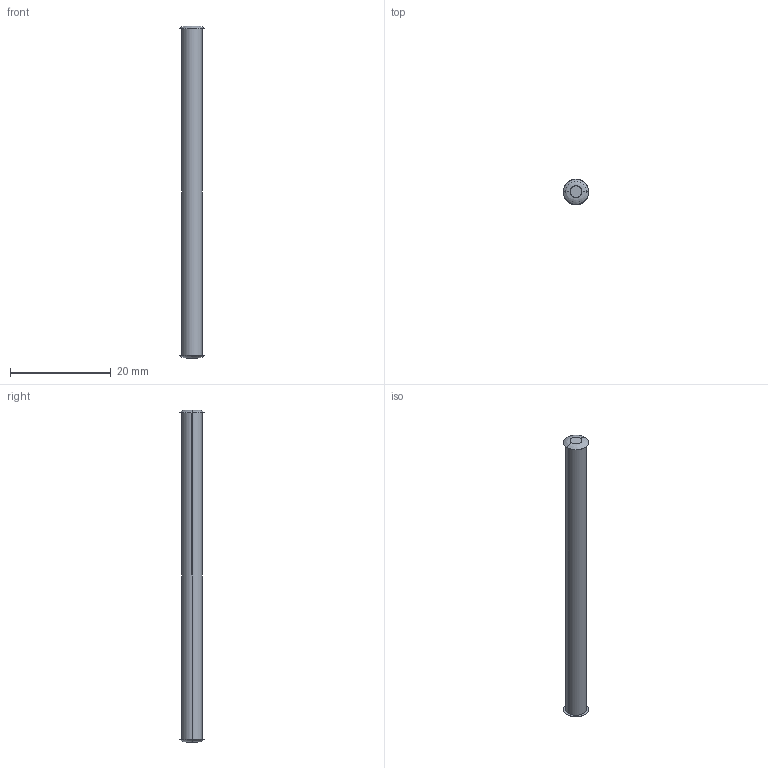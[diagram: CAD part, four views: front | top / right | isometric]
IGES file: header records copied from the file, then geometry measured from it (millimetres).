
Start section: SolidWorks IGES file using analytic representation for surfaces
Global section: file name: Z:\Mes documents\ATAO iges\Gamme GE\GE 1091\1091.030.00.IGS; native system: SolidWorks 2008; preprocessor: SolidWorks 2008; author: cbrechard; date: 110527.102425; units: millimetre
Bounding box: 5 x 5 x 66 mm (x, y, z)
Surface area: 873.6 mm2 (no closed solid volume)
Topology: 0 solids, 0 shells, 10 faces, 216 edges, 216 vertices
Faces by surface type: bspline 8, revolution 2
